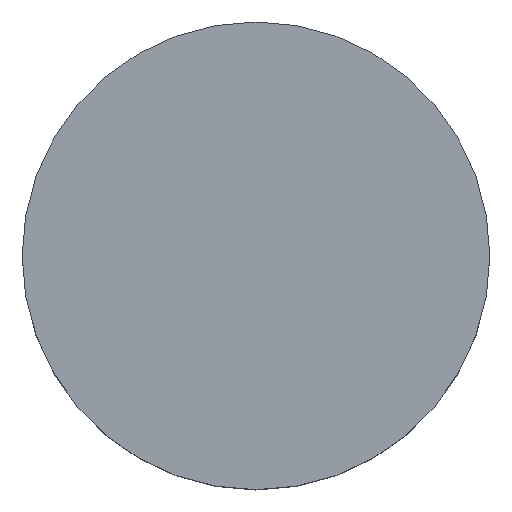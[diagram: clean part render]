
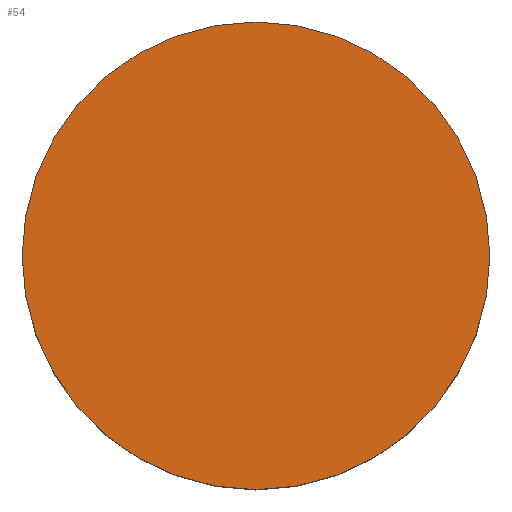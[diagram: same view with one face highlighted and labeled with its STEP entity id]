
A CAD part, top view. The second image highlights one B-rep face of the part: STEP entity #54.
In plain terms, the highlighted planar face has unit normal (0, 0, 1).
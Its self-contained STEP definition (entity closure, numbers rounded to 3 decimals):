
#2 = EDGE_CURVE ( 'NONE', #55, #33, #109, .T. ) ;
#7 = DIRECTION ( 'NONE',  ( 1., 0., 0. ) ) ;
#17 = AXIS2_PLACEMENT_3D ( 'NONE', #63, #155, #7 ) ;
#19 = EDGE_CURVE ( 'NONE', #33, #55, #92, .T. ) ;
#22 = ORIENTED_EDGE ( 'NONE', *, *, #19, .T. ) ;
#33 = VERTEX_POINT ( 'NONE', #80 ) ;
#39 = DIRECTION ( 'NONE',  ( 1., 0., 0. ) ) ;
#42 = AXIS2_PLACEMENT_3D ( 'NONE', #156, #116, #47 ) ;
#47 = DIRECTION ( 'NONE',  ( 1., 0., 0. ) ) ;
#54 = ADVANCED_FACE ( 'NONE', ( #144 ), #103, .T. ) ;
#55 = VERTEX_POINT ( 'NONE', #113 ) ;
#63 = CARTESIAN_POINT ( 'NONE',  ( 0., 0., 0. ) ) ;
#80 = CARTESIAN_POINT ( 'NONE',  ( 8., 0., 0. ) ) ;
#92 = CIRCLE ( 'NONE', #17, 8. ) ;
#99 = EDGE_LOOP ( 'NONE', ( #121, #22 ) ) ;
#103 = PLANE ( 'NONE',  #124 ) ;
#109 = CIRCLE ( 'NONE', #42, 8. ) ;
#113 = CARTESIAN_POINT ( 'NONE',  ( -8., 0., 0. ) ) ;
#116 = DIRECTION ( 'NONE',  ( 0., 0., 1. ) ) ;
#121 = ORIENTED_EDGE ( 'NONE', *, *, #2, .T. ) ;
#124 = AXIS2_PLACEMENT_3D ( 'NONE', #130, #170, #39 ) ;
#130 = CARTESIAN_POINT ( 'NONE',  ( 0., 0., 0. ) ) ;
#144 = FACE_OUTER_BOUND ( 'NONE', #99, .T. ) ;
#155 = DIRECTION ( 'NONE',  ( 0., 0., 1. ) ) ;
#156 = CARTESIAN_POINT ( 'NONE',  ( 0., 0., 0. ) ) ;
#170 = DIRECTION ( 'NONE',  ( 0., 0., 1. ) ) ;
